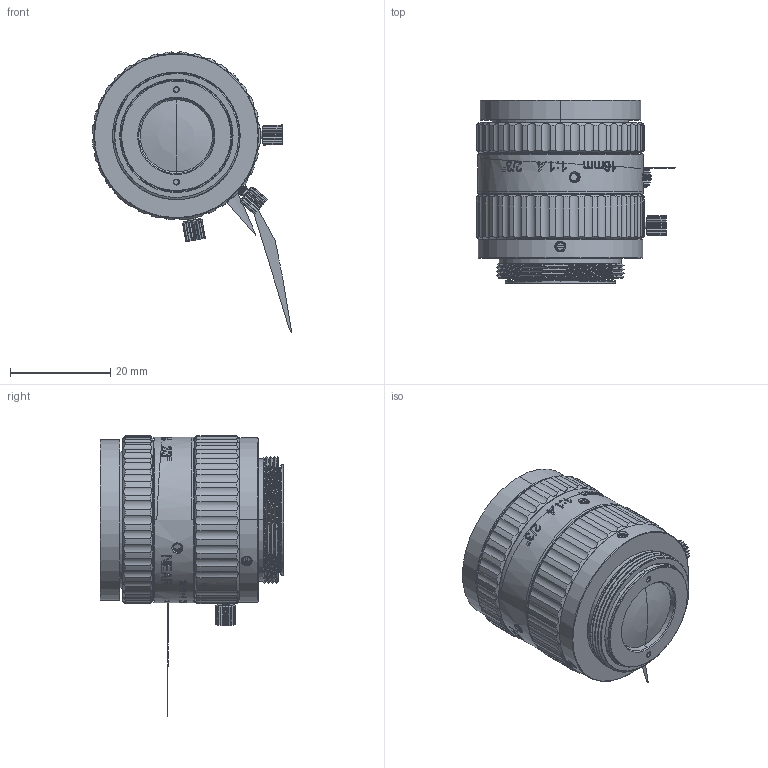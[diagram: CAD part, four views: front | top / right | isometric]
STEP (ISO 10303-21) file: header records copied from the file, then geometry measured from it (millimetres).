
FILE_DESCRIPTION((''),'2;1');
FILE_NAME('FA1602_ASM_ASM','2018-11-21T',('Administrator'),(''),'PRO/ENGINEER BY PARAMETRIC TECHNOLOGY CORPORATION, 2010370','PRO/ENGINEER BY PARAMETRIC TECHNOLOGY CORPORATION, 2010370','');
FILE_SCHEMA(('CONFIG_CONTROL_DESIGN'));
Products named in the file (16): MSBR-37; MSBR-36; MSBR-35; MSBR-34; MSBR-33; MSBR-29; MSBR-28; MSBR-27; MSBR-26; MSBR-19; MSBR-18; MSBR-11; MSBR-10; MSBR-6; MSBR-3; FA1602_ASM_ASM
Assembly tree (15 placements, depth 2):
  FA1602_ASM_ASM
    MSBR-37
    MSBR-36
    MSBR-35
    MSBR-34
    MSBR-33
    MSBR-29
    MSBR-28
    MSBR-27
    MSBR-26
    MSBR-19
    MSBR-18
    MSBR-11
    MSBR-10
    MSBR-6
    MSBR-3
Bounding box: 39.71 x 36.5 x 55.85 mm (x, y, z)
Volume: 15381.6 mm3; surface area: 20119.6 mm2
Topology: 14 solids, 14 shells, 1637 faces, 4494 edges, 2955 vertices
Faces by surface type: cylinder 530, bspline 481, plane 400, cone 215, extrusion 7, sphere 4
Entity records: 95224 total; most frequent: CARTESIAN_POINT 56965, ORIENTED_EDGE 8972, DIRECTION 6295, EDGE_CURVE 4486, VERTEX_POINT 2953, AXIS2_PLACEMENT_3D 2305, EDGE_LOOP 1753, B_SPLINE_CURVE_WITH_KNOTS 1690
